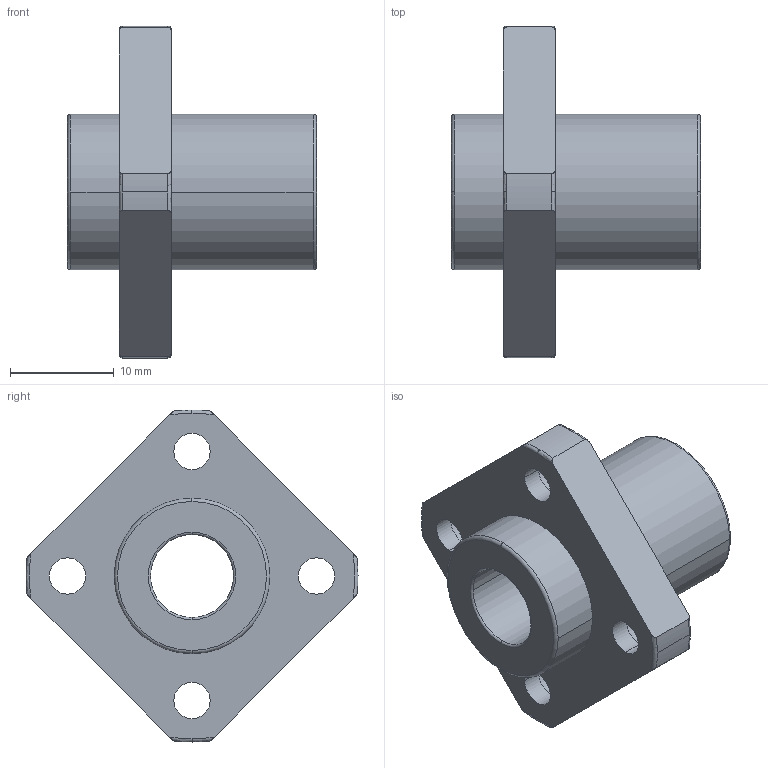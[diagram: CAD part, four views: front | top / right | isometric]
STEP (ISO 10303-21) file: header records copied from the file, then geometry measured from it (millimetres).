
FILE_DESCRIPTION(('FreeCAD Model'),'2;1');
FILE_NAME('Open CASCADE Shape Model','2021-05-03T14:01:12',('Author'),( ''),'Open CASCADE STEP processor 7.5','FreeCAD','Unknown');
FILE_SCHEMA(('AUTOMOTIVE_DESIGN { 1 0 10303 214 1 1 1 1 }'));
Length unit declared in the file: millimetre
Products named in the file (1): linear_lmkp8uu
Bounding box: 24 x 32 x 32 mm (x, y, z)
Volume: 4790.9 mm3; surface area: 3313.8 mm2
Topology: 1 solids, 1 shells, 60 faces, 160 edges, 108 vertices
Faces by surface type: cylinder 28, torus 20, plane 12
Entity records: 5776 total; most frequent: CARTESIAN_POINT 2573, DIRECTION 620, ORIENTED_EDGE 320, PCURVE 320, DEFINITIONAL_REPRESENTATION 320, LINE 268, VECTOR 268, AXIS2_PLACEMENT_3D 165
